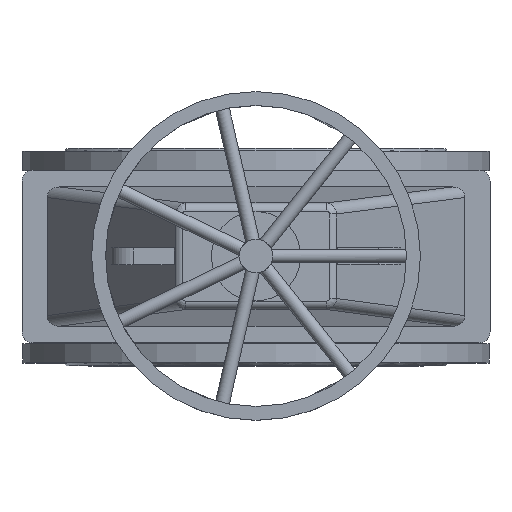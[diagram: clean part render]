
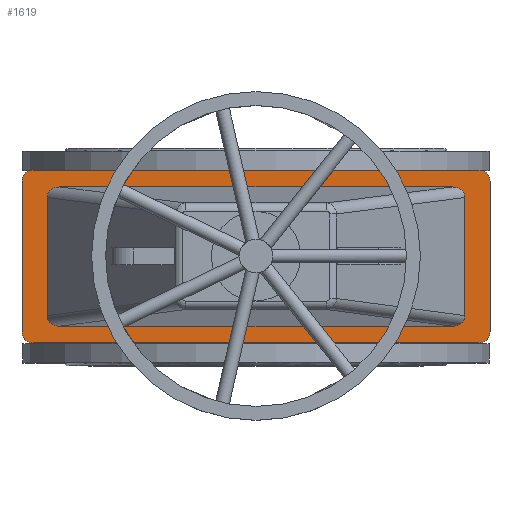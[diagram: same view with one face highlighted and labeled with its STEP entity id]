
A CAD part, top view. The second image highlights one B-rep face of the part: STEP entity #1619.
In plain terms, the highlighted planar face has unit normal (0, 0, 1).
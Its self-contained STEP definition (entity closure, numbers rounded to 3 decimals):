
#1619=ADVANCED_FACE('',(#4248,#4250),#4252,.T.);
#4248=FACE_BOUND('',#4249,.T.);
#4249=EDGE_LOOP('',(#5959,#5960,#5961,#5962,#5963,#5964,#5965,#5966));
#4250=FACE_BOUND('',#4251,.T.);
#4251=EDGE_LOOP('',(#5967,#5968,#5969,#5970,#5971,#5972,#5973,#5974));
#4252=PLANE('',#4253);
#4253=AXIS2_PLACEMENT_3D('',#4254,#4255,#4256);
#4254=CARTESIAN_POINT('',(0.,0.,650.));
#4255=DIRECTION('',(0.,-0.,1.));
#4256=DIRECTION('',(0.,1.,0.));
#5959=ORIENTED_EDGE('',*,*,#6665,.F.);
#5960=ORIENTED_EDGE('',*,*,#6678,.T.);
#5961=ORIENTED_EDGE('',*,*,#6677,.F.);
#5962=ORIENTED_EDGE('',*,*,#6675,.T.);
#5963=ORIENTED_EDGE('',*,*,#6673,.F.);
#5964=ORIENTED_EDGE('',*,*,#6671,.T.);
#5965=ORIENTED_EDGE('',*,*,#6669,.F.);
#5966=ORIENTED_EDGE('',*,*,#6666,.T.);
#5967=ORIENTED_EDGE('',*,*,#6679,.F.);
#5968=ORIENTED_EDGE('',*,*,#6680,.F.);
#5969=ORIENTED_EDGE('',*,*,#6681,.F.);
#5970=ORIENTED_EDGE('',*,*,#6682,.F.);
#5971=ORIENTED_EDGE('',*,*,#6683,.F.);
#5972=ORIENTED_EDGE('',*,*,#6684,.F.);
#5973=ORIENTED_EDGE('',*,*,#6685,.F.);
#5974=ORIENTED_EDGE('',*,*,#6686,.F.);
#6665=EDGE_CURVE('',#7645,#7643,#7647,.F.);
#6666=EDGE_CURVE('',#7648,#7643,#7649,.T.);
#6669=EDGE_CURVE('',#7648,#7651,#7653,.F.);
#6671=EDGE_CURVE('',#7654,#7651,#7656,.T.);
#6673=EDGE_CURVE('',#7654,#7657,#7659,.F.);
#6675=EDGE_CURVE('',#7660,#7657,#7662,.T.);
#6677=EDGE_CURVE('',#7660,#7663,#7665,.F.);
#6678=EDGE_CURVE('',#7645,#7663,#7666,.T.);
#6679=EDGE_CURVE('',#7667,#7668,#7669,.F.);
#6680=EDGE_CURVE('',#7670,#7667,#7671,.T.);
#6681=EDGE_CURVE('',#7672,#7670,#7673,.T.);
#6682=EDGE_CURVE('',#7674,#7672,#7675,.T.);
#6683=EDGE_CURVE('',#7676,#7674,#7677,.F.);
#6684=EDGE_CURVE('',#7678,#7676,#7679,.T.);
#6685=EDGE_CURVE('',#7680,#7678,#7681,.T.);
#6686=EDGE_CURVE('',#7668,#7680,#7682,.T.);
#7643=VERTEX_POINT('',#12941);
#7645=VERTEX_POINT('',#12945);
#7647=CIRCLE('',#12949,20.);
#7648=VERTEX_POINT('',#12953);
#7649=LINE('',#12954,#12955);
#7651=VERTEX_POINT('',#12960);
#7653=CIRCLE('',#12964,20.);
#7654=VERTEX_POINT('',#12968);
#7656=LINE('',#12972,#12973);
#7657=VERTEX_POINT('',#12975);
#7659=CIRCLE('',#12979,20.);
#7660=VERTEX_POINT('',#12983);
#7662=LINE('',#12987,#12988);
#7663=VERTEX_POINT('',#12990);
#7665=CIRCLE('',#12994,20.);
#7666=LINE('',#12998,#12999);
#7667=VERTEX_POINT('',#13001);
#7668=VERTEX_POINT('',#13002);
#7669=(BOUNDED_CURVE()B_SPLINE_CURVE(3,
(#13003,#13004,#13005,#13006),
.UNSPECIFIED.,.F.,.F.)B_SPLINE_CURVE_WITH_KNOTS((4,4),
(0.,1.),
.UNSPECIFIED.)CURVE()GEOMETRIC_REPRESENTATION_ITEM()RATIONAL_B_SPLINE_CURVE((1.,
0.816,0.816,1.))REPRESENTATION_ITEM(''));
#7670=VERTEX_POINT('',#13007);
#7671=LINE('',#13008,#13009);
#7672=VERTEX_POINT('',#13011);
#7673=(BOUNDED_CURVE()B_SPLINE_CURVE(3,
(#13012,#13013,#13014,#13015),
.UNSPECIFIED.,.F.,.F.)B_SPLINE_CURVE_WITH_KNOTS((4,4),
(0.,1.),
.UNSPECIFIED.)CURVE()GEOMETRIC_REPRESENTATION_ITEM()RATIONAL_B_SPLINE_CURVE((1.,
0.816,0.816,1.))REPRESENTATION_ITEM(''));
#7674=VERTEX_POINT('',#13016);
#7675=LINE('',#13017,#13018);
#7676=VERTEX_POINT('',#13020);
#7677=(BOUNDED_CURVE()B_SPLINE_CURVE(3,
(#13021,#13022,#13023,#13024),
.UNSPECIFIED.,.F.,.F.)B_SPLINE_CURVE_WITH_KNOTS((4,4),
(0.,1.),
.UNSPECIFIED.)CURVE()GEOMETRIC_REPRESENTATION_ITEM()RATIONAL_B_SPLINE_CURVE((1.,
0.816,0.816,1.))REPRESENTATION_ITEM(''));
#7678=VERTEX_POINT('',#13025);
#7679=LINE('',#13026,#13027);
#7680=VERTEX_POINT('',#13029);
#7681=(BOUNDED_CURVE()B_SPLINE_CURVE(3,
(#13030,#13031,#13032,#13033),
.UNSPECIFIED.,.F.,.F.)B_SPLINE_CURVE_WITH_KNOTS((4,4),
(0.,1.),
.UNSPECIFIED.)CURVE()GEOMETRIC_REPRESENTATION_ITEM()RATIONAL_B_SPLINE_CURVE((1.,
0.816,0.816,1.))REPRESENTATION_ITEM(''));
#7682=LINE('',#13034,#13035);
#12941=CARTESIAN_POINT('',(-420.,-135.,650.));
#12945=CARTESIAN_POINT('',(-400.,-155.,650.));
#12949=AXIS2_PLACEMENT_3D('',#12950,#12951,#12952);
#12950=CARTESIAN_POINT('',(-400.,-135.,650.));
#12951=DIRECTION('',(0.,-0.,1.));
#12952=DIRECTION('',(-1.,0.,0.));
#12953=CARTESIAN_POINT('',(-420.,135.,650.));
#12954=CARTESIAN_POINT('',(-420.,135.,650.));
#12955=VECTOR('',#12956,1.);
#12956=DIRECTION('',(0.,-1.,0.));
#12960=CARTESIAN_POINT('',(-400.,155.,650.));
#12964=AXIS2_PLACEMENT_3D('',#12965,#12966,#12967);
#12965=CARTESIAN_POINT('',(-400.,135.,650.));
#12966=DIRECTION('',(0.,-0.,1.));
#12967=DIRECTION('',(0.,1.,0.));
#12968=CARTESIAN_POINT('',(400.,155.,650.));
#12972=CARTESIAN_POINT('',(400.,155.,650.));
#12973=VECTOR('',#12974,1.);
#12974=DIRECTION('',(-1.,0.,0.));
#12975=CARTESIAN_POINT('',(420.,135.,650.));
#12979=AXIS2_PLACEMENT_3D('',#12980,#12981,#12982);
#12980=CARTESIAN_POINT('',(400.,135.,650.));
#12981=DIRECTION('',(0.,-0.,1.));
#12982=DIRECTION('',(1.,0.,0.));
#12983=CARTESIAN_POINT('',(420.,-135.,650.));
#12987=CARTESIAN_POINT('',(420.,-135.,650.));
#12988=VECTOR('',#12989,1.);
#12989=DIRECTION('',(0.,1.,0.));
#12990=CARTESIAN_POINT('',(400.,-155.,650.));
#12994=AXIS2_PLACEMENT_3D('',#12995,#12996,#12997);
#12995=CARTESIAN_POINT('',(400.,-135.,650.));
#12996=DIRECTION('',(0.,-0.,1.));
#12997=DIRECTION('',(0.,-1.,0.));
#12998=CARTESIAN_POINT('',(-400.,-155.,650.));
#12999=VECTOR('',#13000,1.);
#13000=DIRECTION('',(1.,0.,0.));
#13001=CARTESIAN_POINT('',(-375.,-105.899,650.));
#13002=CARTESIAN_POINT('',(-352.08,-125.,650.));
#13003=CARTESIAN_POINT('',(-352.08,-125.,650.));
#13004=CARTESIAN_POINT('',(-365.638,-125.,650.));
#13005=CARTESIAN_POINT('',(-375.,-117.198,650.));
#13006=CARTESIAN_POINT('',(-375.,-105.899,650.));
#13007=CARTESIAN_POINT('',(-375.,105.899,650.));
#13008=CARTESIAN_POINT('',(-375.,105.899,650.));
#13009=VECTOR('',#13010,1.);
#13010=DIRECTION('',(0.,-1.,0.));
#13011=CARTESIAN_POINT('',(-352.08,125.,650.));
#13012=CARTESIAN_POINT('',(-352.08,125.,650.));
#13013=CARTESIAN_POINT('',(-365.638,125.,650.));
#13014=CARTESIAN_POINT('',(-375.,117.198,650.));
#13015=CARTESIAN_POINT('',(-375.,105.899,650.));
#13016=CARTESIAN_POINT('',(352.08,125.,650.));
#13017=CARTESIAN_POINT('',(352.08,125.,650.));
#13018=VECTOR('',#13019,1.);
#13019=DIRECTION('',(-1.,0.,0.));
#13020=CARTESIAN_POINT('',(375.,105.899,650.));
#13021=CARTESIAN_POINT('',(352.08,125.,650.));
#13022=CARTESIAN_POINT('',(365.638,125.,650.));
#13023=CARTESIAN_POINT('',(375.,117.198,650.));
#13024=CARTESIAN_POINT('',(375.,105.899,650.));
#13025=CARTESIAN_POINT('',(375.,-105.899,650.));
#13026=CARTESIAN_POINT('',(375.,-105.899,650.));
#13027=VECTOR('',#13028,1.);
#13028=DIRECTION('',(0.,1.,0.));
#13029=CARTESIAN_POINT('',(352.08,-125.,650.));
#13030=CARTESIAN_POINT('',(352.08,-125.,650.));
#13031=CARTESIAN_POINT('',(365.638,-125.,650.));
#13032=CARTESIAN_POINT('',(375.,-117.198,650.));
#13033=CARTESIAN_POINT('',(375.,-105.899,650.));
#13034=CARTESIAN_POINT('',(-352.08,-125.,650.));
#13035=VECTOR('',#13036,1.);
#13036=DIRECTION('',(1.,0.,0.));
